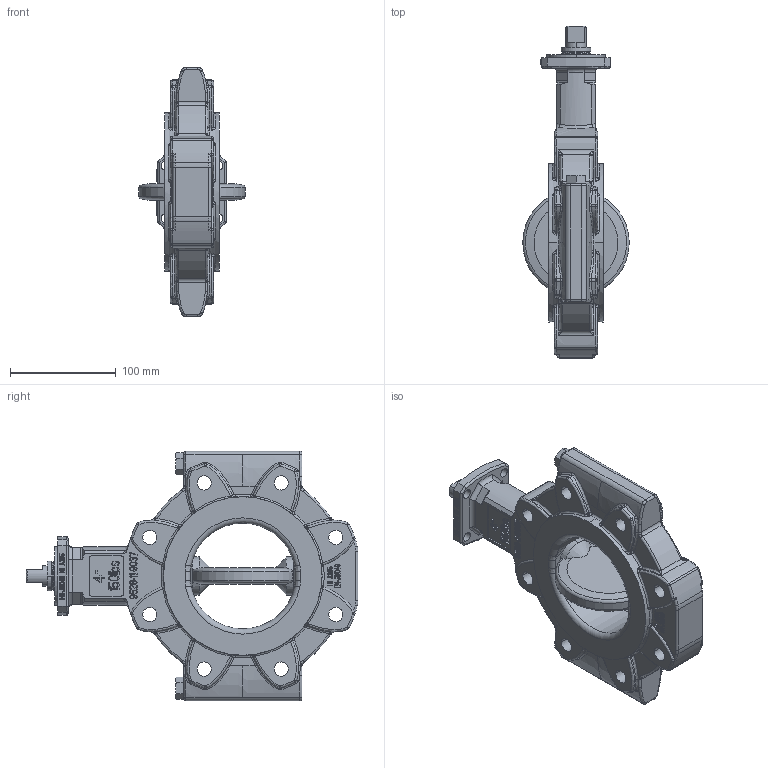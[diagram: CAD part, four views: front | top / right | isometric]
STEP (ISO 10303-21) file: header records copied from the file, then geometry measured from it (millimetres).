
FILE_DESCRIPTION((''),'2;1');
FILE_NAME('9520-00-5102_A_SW0003','2013-09-17T',('smarkstein'),(''),'PRO/ENGINEER BY PARAMETRIC TECHNOLOGY CORPORATION, 2011040','PRO/ENGINEER BY PARAMETRIC TECHNOLOGY CORPORATION, 2011040','');
FILE_SCHEMA(('CONFIG_CONTROL_DESIGN'));
Products named in the file (1): 9520-00-5102_A_SW0003
Bounding box: 100.71 x 314 x 236 mm (x, y, z)
Volume: 1398110.9 mm3; surface area: 224185.8 mm2
Topology: 2 solids, 5 shells, 3342 faces, 9137 edges, 5932 vertices
Faces by surface type: plane 2566, bspline 306, cylinder 236, torus 142, cone 52, extrusion 36, sphere 2, revolution 2
Entity records: 117595 total; most frequent: CARTESIAN_POINT 34689, ORIENTED_EDGE 18266, DIRECTION 15467, EDGE_CURVE 9133, VECTOR 7465, LINE 7429, VERTEX_POINT 5932, AXIS2_PLACEMENT_3D 4000
